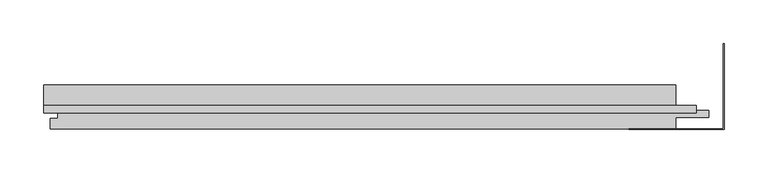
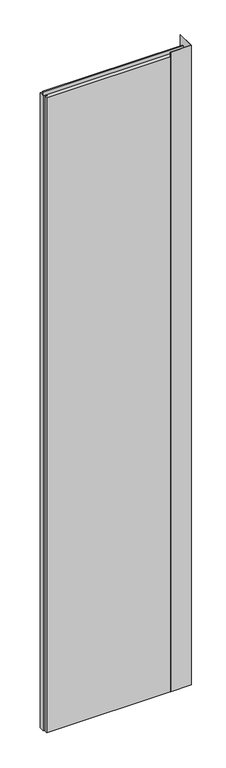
"""IFC4 building model written with IfcOpenShell, lengths in millimetres: plate geometry, Trimo_Qbiss Screen_Normal Panel-VERTICAL : HR - B."""

from ifc_helpers import new_model, si_unit, frame, origin, place, context, project, spatial, polyline, outline, extrude, source, transform, mapped, element, save


def plate_3204965b(model_context):
    return source(origin(), model_context, "Body", "SweptSolid", [
        extrude(outline(polyline([(349.0, 76.0), (349.0, 173.0), (349.8, 173.0), (349.8, 75.2), (241.0, 75.2), (241.0, 76.0), (349.0, 76.0)])), frame((0.0, 0.0, 12.5), z_axis=(0.0, 0.0, 1.0), x_axis=(1.0, 0.0, 0.0)), (0.0, 0.0, 1.0), 3600.0),
        extrude(outline(polyline([(-425.0, 93.9), (-425.0, 102.6), (318.0, 102.6), (318.0, 93.9), (-425.0, 93.9)])), frame((0.0, 0.0, 3590.5), z_axis=(0.0, 0.0, 1.0), x_axis=(1.0, 0.0, 0.0)), (0.0, 0.0, 1.0), 19.0),
        extrude(outline(polyline([(295.0, 97.0), (332.5, 97.0), (332.5, 89.0), (295.0, 89.0), (295.0, 76.0), (-418.0, 76.0), (-418.0, 88.0), (-409.5, 88.0), (-409.5, 98.0), (-425.0, 98.0), (-425.0, 126.0), (295.0, 126.0), (295.0, 97.0)])), frame((0.0, 0.0, 12.5), z_axis=(0.0, 0.0, 1.0), x_axis=(1.0, 0.0, 0.0)), (0.0, 0.0, 1.0), 3575.0),
    ])


if __name__ == "__main__":
    model = new_model("IFC4")
    model_context = context("Model", 3, world=origin())
    ifc_project = project(units=[si_unit("LENGTHUNIT", "METRE", prefix="MILLI")], contexts=[model_context])
    site = spatial("IfcSite", under=ifc_project)
    building = spatial("IfcBuilding", under=site)
    placement = place(None, origin())
    plate_shape = plate_3204965b(model_context)
    element("IfcPlate", 1, ObjectType="Trimo_Qbiss Screen_Normal Panel-VERTICAL : HR - B", at=placement, inside=building, context=model_context, shape_type="MappedRepresentation", body=[
        mapped(plate_shape, transform((0.0, 0.0, 0.0), x_axis=(1.0, 0.0, 0.0), y_axis=(0.0, 1.0, 0.0), z_axis=(0.0, 0.0, 1.0))),
    ])
    save(model, "model.ifc")
